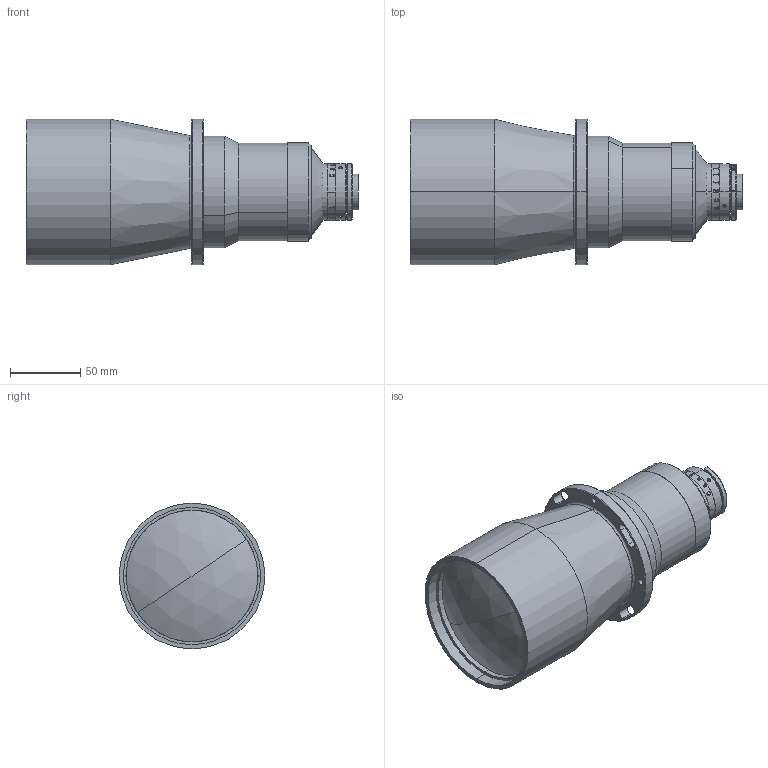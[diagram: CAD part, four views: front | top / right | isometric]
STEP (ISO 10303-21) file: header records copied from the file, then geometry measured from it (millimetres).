
FILE_DESCRIPTION (( 'STEP AP203' ), '1' );
FILE_NAME ('XF-PTL08008-C.STEP', '2020-05-09T02:09:10', ( 'puyufan' ), ( '' ), 'SwSTEP 2.0', 'SolidWorks 2014', '' );
FILE_SCHEMA (( 'CONFIG_CONTROL_DESIGN' ));
Length unit declared in the file: millimetre
Products named in the file (1): XF-PTL08008-C
Bounding box: 237.08 x 104 x 104 mm (x, y, z)
Surface area: 94401.3 mm2 (no closed solid volume)
Topology: 0 solids, 24 shells, 171 faces, 949 edges, 801 vertices
Faces by surface type: cylinder 98, plane 35, torus 16, cone 16, bspline 4, sphere 2
Entity records: 15617 total; most frequent: CARTESIAN_POINT 8576, DIRECTION 1365, ORIENTED_EDGE 1254, EDGE_CURVE 949, VERTEX_POINT 801, AXIS2_PLACEMENT_3D 540, CIRCLE 372, B_SPLINE_CURVE_WITH_KNOTS 292
